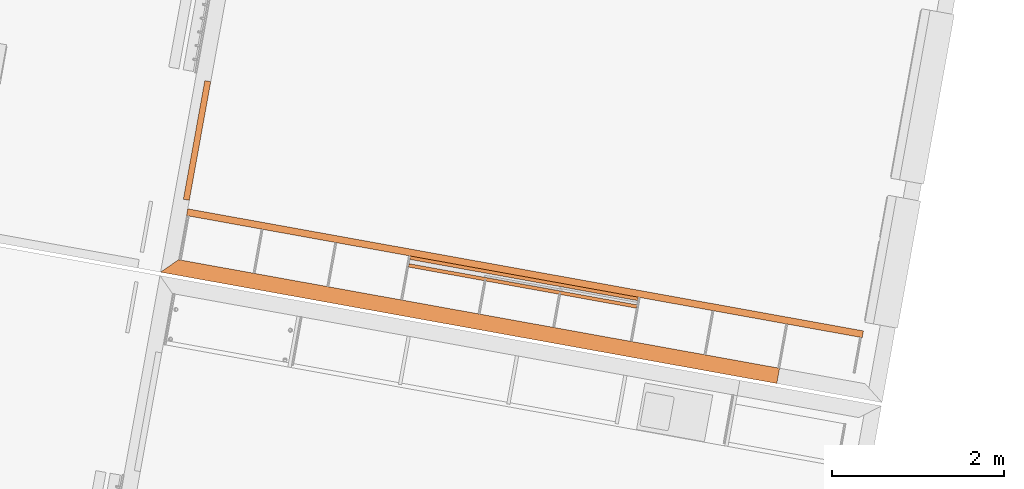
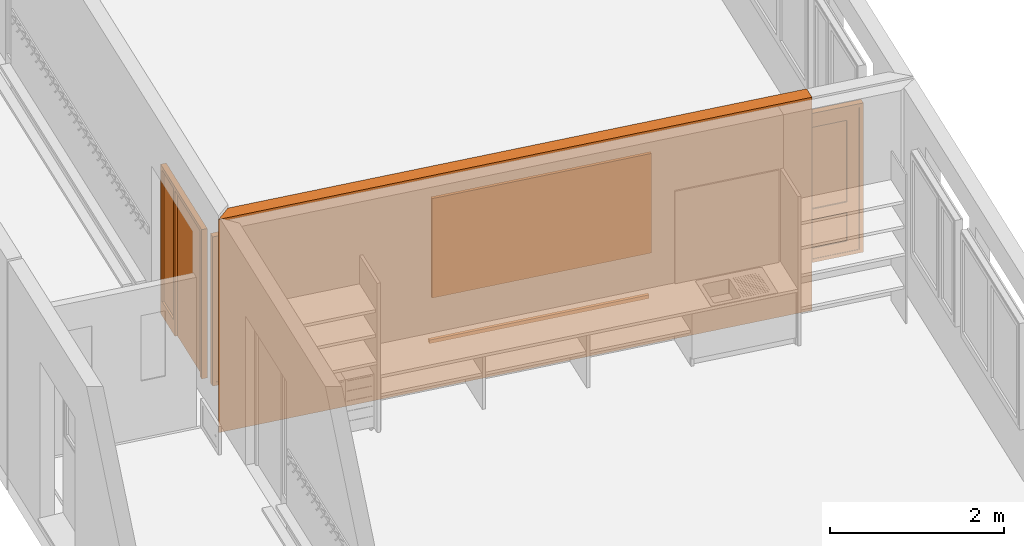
# One storey, part 20 of 52: 5 proxies.
"""IFC2X3 building model written with IfcOpenShell, lengths in metres."""

from ifc_helpers import new_model, entity, si_unit, converted_unit, derived_unit, money_unit, direction, frame, origin_with_axes, place, context, subcontext, project, spatial, polyline, outline, extrude, open_shell, faceted_brep, surface_model, source, transform, mapped, material, type_object, element, save


model = new_model("IFC2X3")

# Units and contexts
model_context = context("Model", 3, precision=1e-05, world=origin_with_axes(), true_north=direction((0.0, 1.0)))
body_context = subcontext(model_context, "Body", "Model", "MODEL_VIEW")
ifc_project = project(units=[si_unit("LENGTHUNIT", "METRE"), si_unit("AREAUNIT", "SQUARE_METRE"), si_unit("VOLUMEUNIT", "CUBIC_METRE"), converted_unit("PLANEANGLEUNIT", "DEGREE", entity("IfcPlaneAngleMeasure", 0.0174532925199), si_unit("PLANEANGLEUNIT", "RADIAN"), dimensions=[0, 0, 0, 0, 0, 0, 0]), money_unit("CHF"), converted_unit("TIMEUNIT", "Year", entity("IfcTimeMeasure", 31556926.0), si_unit("TIMEUNIT", "SECOND"), dimensions=[0, 0, 1, 0, 0, 0, 0]), si_unit("MASSUNIT", "GRAM", prefix="KILO"), si_unit("THERMODYNAMICTEMPERATUREUNIT", "DEGREE_CELSIUS"), si_unit("LUMINOUSINTENSITYUNIT", "LUMEN"), si_unit("ENERGYUNIT", "JOULE", prefix="MEGA"), derived_unit("THERMALCONDUCTANCEUNIT", [(si_unit("POWERUNIT", "WATT"), 1), (si_unit("LENGTHUNIT", "METRE"), -1), (si_unit("THERMODYNAMICTEMPERATUREUNIT", "KELVIN"), -1)]), derived_unit("SPECIFICHEATCAPACITYUNIT", [(si_unit("ENERGYUNIT", "JOULE"), 1), (si_unit("MASSUNIT", "GRAM", prefix="KILO"), -1), (si_unit("THERMODYNAMICTEMPERATUREUNIT", "KELVIN"), -1)]), derived_unit("MASSDENSITYUNIT", [(si_unit("MASSUNIT", "GRAM", prefix="KILO"), 1), (si_unit("VOLUMEUNIT", "CUBIC_METRE"), -1)])], contexts=[model_context])

# Site, building, storey
site_placement = place(None, frame((0.0, 0.0, 0.0), z_axis=(0.0, 0.0, 1.0), x_axis=(-0.177771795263, -0.984071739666, 0.0)))
site = spatial("IfcSite", under=ifc_project, at=site_placement, Name="Site", CompositionType="ELEMENT")
building_placement = place(site_placement, origin_with_axes())
building = spatial("IfcBuilding", under=site, at=building_placement, Name="Bâtiment", CompositionType="ELEMENT")
storey_placement = place(building_placement, frame((0.0, 0.0, 3.2), z_axis=(0.0, 0.0, 1.0), x_axis=(1.0, 0.0, 0.0)))
storey = spatial("IfcBuildingStorey", under=building, at=storey_placement, Name="R+1", CompositionType="ELEMENT", Elevation=3.2)

# Proxies
ifc_material_1 = material(Name="_BA banché RAL9007")
building_element_proxy_type_1 = type_object("IfcBuildingElementProxyType", Name="_BA banché RAL9007 180", PredefinedType="NOTDEFINED")
proxy_1_placement = place(storey_placement, frame((128.464841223, -156.627151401, -0.15), z_axis=(0.0, 0.0, 1.0), x_axis=(0.0, 1.0, 0.0)))
element("IfcBuildingElementProxy", 1, at=proxy_1_placement, inside=storey, type_object=building_element_proxy_type_1, material=ifc_material_1, Name="M refend", context=body_context, shape_type="SweptSolid", body=[
    extrude(outline(polyline([(0.0, 0.0), (7.26899999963, 0.0), (7.26899999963, 0.18), (0.179999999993, 0.18), (0.0, 0.0)])), origin_with_axes(), (0.0, 0.0, 1.0), 3.0),
])
ifc_material_2 = material(Name="Matériau de construction IFC")
building_element_proxy_type_2 = type_object("IfcBuildingElementProxyType", Name="porte-couliss-triple_JM2", PredefinedType="NOTDEFINED")
shared_shape_1 = source(origin_with_axes(), body_context, "Body", "SurfaceModel", [
    surface_model("IfcShellBasedSurfaceModel", [(7.92, -0.0799999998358, 0.05), (7.92, -0.0799999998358, 2.05), (7.92, 1.64206426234e-10, 2.05), (7.92, 1.64206426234e-10, 0.05), (7.97, -0.0799999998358, 2.05), (7.97, -0.0799999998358, 0.05), (7.97, 1.64206426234e-10, 2.05), (7.97, 1.64206426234e-10, 0.05)], [open_shell([[[0, 1, 2, 3]], [[4, 1, 0, 5]], [[6, 7, 3, 2]]])]),
    surface_model("IfcShellBasedSurfaceModel", [(7.97, -0.0799999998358, 0.0), (7.97, -0.0799999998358, 2.1), (7.97, 1.64206426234e-10, 2.1), (7.97, 1.64206426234e-10, 0.0)], [open_shell([[[0, 1, 2, 3]]])]),
    surface_model("IfcShellBasedSurfaceModel", [(0.05, -0.0799999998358, 0.05), (7.92, -0.0799999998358, 0.05), (7.92, 1.64206426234e-10, 0.05), (0.05, 1.64206426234e-10, 0.05), (7.92, -0.0799999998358, 0.0), (0.05, -0.0799999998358, 0.0), (7.92, 1.64206426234e-10, 0.0), (0.05, 1.64206426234e-10, 0.0)], [open_shell([[[0, 1, 2, 3]], [[4, 1, 0, 5]], [[6, 7, 3, 2]]])]),
    surface_model("IfcShellBasedSurfaceModel", [(7.97, -0.0799999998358, 0.0), (0.0, -0.0799999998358, 0.0), (0.0, 1.64206426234e-10, 0.0), (7.97, 1.64206426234e-10, 0.0)], [open_shell([[[0, 1, 2, 3]]])]),
    surface_model("IfcShellBasedSurfaceModel", [(7.97, -0.0799999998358, 0.0), (7.97, -0.0799999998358, 0.05), (7.92, -0.0799999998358, 0.05), (7.92, -0.0799999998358, 0.0)], [open_shell([[[0, 1, 2, 3]]])]),
    surface_model("IfcShellBasedSurfaceModel", [(7.97, 1.64206426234e-10, 0.0), (7.97, 1.64206426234e-10, 0.05), (7.92, 1.64206426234e-10, 0.05), (7.92, 1.64206426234e-10, 0.0)], [open_shell([[[0, 1, 2, 3]]])]),
    surface_model("IfcShellBasedSurfaceModel", [(0.05, -0.0799999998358, 0.0), (0.05, -0.0799999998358, 0.05), (0.0, -0.0799999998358, 0.05), (0.0, -0.0799999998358, 0.0)], [open_shell([[[0, 1, 2, 3]]])]),
    surface_model("IfcShellBasedSurfaceModel", [(0.05, 1.64206426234e-10, 0.0), (0.05, 1.64206426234e-10, 0.05), (0.0, 1.64206426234e-10, 0.05), (0.0, 1.64206426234e-10, 0.0)], [open_shell([[[0, 1, 2, 3]]])]),
    surface_model("IfcShellBasedSurfaceModel", [(0.05, -0.0799999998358, 2.05), (0.05, -0.0799999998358, 0.05), (0.05, 1.64206426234e-10, 0.05), (0.05, 1.64206426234e-10, 2.05), (0.0, -0.0799999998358, 0.05), (0.0, -0.0799999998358, 2.05), (0.0, 1.64206426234e-10, 0.05), (0.0, 1.64206426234e-10, 2.05)], [open_shell([[[0, 1, 2, 3]], [[4, 1, 0, 5]], [[6, 7, 3, 2]]])]),
    surface_model("IfcShellBasedSurfaceModel", [(0.0, -0.0799999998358, 0.0), (0.0, -0.0799999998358, 2.1), (0.0, 1.64206426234e-10, 2.1), (0.0, 1.64206426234e-10, 0.0)], [open_shell([[[0, 1, 2, 3]]])]),
    surface_model("IfcShellBasedSurfaceModel", [(7.92, -0.0799999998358, 2.05), (0.05, -0.0799999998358, 2.05), (0.05, 1.64206426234e-10, 2.05), (7.92, 1.64206426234e-10, 2.05), (0.05, -0.0799999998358, 2.1), (7.92, -0.0799999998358, 2.1), (0.05, 1.64206426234e-10, 2.1), (7.92, 1.64206426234e-10, 2.1)], [open_shell([[[0, 1, 2, 3]], [[4, 1, 0, 5]], [[6, 7, 3, 2]]])]),
    surface_model("IfcShellBasedSurfaceModel", [(7.97, -0.0799999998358, 2.1), (0.0, -0.0799999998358, 2.1), (0.0, 1.64206426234e-10, 2.1), (7.97, 1.64206426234e-10, 2.1)], [open_shell([[[0, 1, 2, 3]]])]),
    surface_model("IfcShellBasedSurfaceModel", [(7.97, -0.0799999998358, 2.05), (7.97, -0.0799999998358, 2.1), (7.92, -0.0799999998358, 2.1), (7.92, -0.0799999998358, 2.05)], [open_shell([[[0, 1, 2, 3]]])]),
    surface_model("IfcShellBasedSurfaceModel", [(7.97, 1.64206426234e-10, 2.05), (7.97, 1.64206426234e-10, 2.1), (7.92, 1.64206426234e-10, 2.1), (7.92, 1.64206426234e-10, 2.05)], [open_shell([[[0, 1, 2, 3]]])]),
    surface_model("IfcShellBasedSurfaceModel", [(0.05, -0.0799999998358, 2.05), (0.05, -0.0799999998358, 2.1), (0.0, -0.0799999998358, 2.1), (0.0, -0.0799999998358, 2.05)], [open_shell([[[0, 1, 2, 3]]])]),
    surface_model("IfcShellBasedSurfaceModel", [(0.05, 1.64206426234e-10, 2.05), (0.05, 1.64206426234e-10, 2.1), (0.0, 1.64206426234e-10, 2.1), (0.0, 1.64206426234e-10, 2.05)], [open_shell([[[0, 1, 2, 3]]])]),
    surface_model("IfcShellBasedSurfaceModel", [(7.77, -0.0744999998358, 0.2), (7.77, -0.0744999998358, 1.9), (7.77, -0.00449999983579, 1.9), (7.77, -0.00449999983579, 0.2), (7.92, -0.0744999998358, 1.9), (7.92, -0.0744999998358, 0.2), (7.92, -0.00449999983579, 1.9), (7.92, -0.00449999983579, 0.2)], [open_shell([[[0, 1, 2, 3]], [[4, 1, 0, 5]], [[6, 7, 3, 2]]])]),
    surface_model("IfcShellBasedSurfaceModel", [(7.92, -0.0744999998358, 0.05), (7.92, -0.0744999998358, 2.05), (7.92, -0.00449999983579, 2.05), (7.92, -0.00449999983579, 0.05)], [open_shell([[[0, 1, 2, 3]]])]),
    surface_model("IfcShellBasedSurfaceModel", [(5.48, -0.0744999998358, 0.2), (7.77, -0.0744999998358, 0.2), (7.77, -0.00449999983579, 0.2), (5.48, -0.00449999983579, 0.2), (7.77, -0.0744999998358, 0.05), (5.48, -0.0744999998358, 0.05), (7.77, -0.00449999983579, 0.05), (5.48, -0.00449999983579, 0.05)], [open_shell([[[0, 1, 2, 3]], [[4, 1, 0, 5]], [[6, 7, 3, 2]]])]),
    surface_model("IfcShellBasedSurfaceModel", [(7.92, -0.0744999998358, 0.05), (5.33, -0.0744999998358, 0.05), (5.33, -0.00449999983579, 0.05), (7.92, -0.00449999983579, 0.05)], [open_shell([[[0, 1, 2, 3]]])]),
    surface_model("IfcShellBasedSurfaceModel", [(7.92, -0.0744999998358, 0.05), (7.92, -0.0744999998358, 0.2), (7.77, -0.0744999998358, 0.2), (7.77, -0.0744999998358, 0.05)], [open_shell([[[0, 1, 2, 3]]])]),
    surface_model("IfcShellBasedSurfaceModel", [(7.92, -0.00449999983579, 0.05), (7.92, -0.00449999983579, 0.2), (7.77, -0.00449999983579, 0.2), (7.77, -0.00449999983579, 0.05)], [open_shell([[[0, 1, 2, 3]]])]),
    surface_model("IfcShellBasedSurfaceModel", [(5.48, -0.0744999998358, 0.05), (5.48, -0.0744999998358, 0.2), (5.33, -0.0744999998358, 0.2), (5.33, -0.0744999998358, 0.05)], [open_shell([[[0, 1, 2, 3]]])]),
    surface_model("IfcShellBasedSurfaceModel", [(5.48, -0.00449999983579, 0.05), (5.48, -0.00449999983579, 0.2), (5.33, -0.00449999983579, 0.2), (5.33, -0.00449999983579, 0.05)], [open_shell([[[0, 1, 2, 3]]])]),
    surface_model("IfcShellBasedSurfaceModel", [(5.48, -0.0744999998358, 1.9), (5.48, -0.0744999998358, 0.2), (5.48, -0.00449999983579, 0.2), (5.48, -0.00449999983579, 1.9), (5.33, -0.0744999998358, 0.2), (5.33, -0.0744999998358, 1.9), (5.33, -0.00449999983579, 0.2), (5.33, -0.00449999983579, 1.9)], [open_shell([[[0, 1, 2, 3]], [[4, 1, 0, 5]], [[6, 7, 3, 2]]])]),
    surface_model("IfcShellBasedSurfaceModel", [(5.33, -0.0744999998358, 0.05), (5.33, -0.0744999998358, 2.05), (5.33, -0.00449999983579, 2.05), (5.33, -0.00449999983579, 0.05)], [open_shell([[[0, 1, 2, 3]]])]),
    surface_model("IfcShellBasedSurfaceModel", [(7.77, -0.0744999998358, 1.9), (5.48, -0.0744999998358, 1.9), (5.48, -0.00449999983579, 1.9), (7.77, -0.00449999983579, 1.9), (5.48, -0.0744999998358, 2.05), (7.77, -0.0744999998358, 2.05), (5.48, -0.00449999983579, 2.05), (7.77, -0.00449999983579, 2.05)], [open_shell([[[0, 1, 2, 3]], [[4, 1, 0, 5]], [[6, 7, 3, 2]]])]),
    surface_model("IfcShellBasedSurfaceModel", [(7.92, -0.0744999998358, 2.05), (5.33, -0.0744999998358, 2.05), (5.33, -0.00449999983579, 2.05), (7.92, -0.00449999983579, 2.05)], [open_shell([[[0, 1, 2, 3]]])]),
    surface_model("IfcShellBasedSurfaceModel", [(7.92, -0.0744999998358, 1.9), (7.92, -0.0744999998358, 2.05), (7.77, -0.0744999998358, 2.05), (7.77, -0.0744999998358, 1.9)], [open_shell([[[0, 1, 2, 3]]])]),
    surface_model("IfcShellBasedSurfaceModel", [(7.92, -0.00449999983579, 1.9), (7.92, -0.00449999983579, 2.05), (7.77, -0.00449999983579, 2.05), (7.77, -0.00449999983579, 1.9)], [open_shell([[[0, 1, 2, 3]]])]),
    surface_model("IfcShellBasedSurfaceModel", [(5.48, -0.0744999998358, 1.9), (5.48, -0.0744999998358, 2.05), (5.33, -0.0744999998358, 2.05), (5.33, -0.0744999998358, 1.9)], [open_shell([[[0, 1, 2, 3]]])]),
    surface_model("IfcShellBasedSurfaceModel", [(5.48, -0.00449999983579, 1.9), (5.48, -0.00449999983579, 2.05), (5.33, -0.00449999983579, 2.05), (5.33, -0.00449999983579, 1.9)], [open_shell([[[0, 1, 2, 3]]])]),
    faceted_brep([(5.48, -0.0194999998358, 0.2), (7.77, -0.0194999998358, 0.2), (7.77, -0.0594999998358, 0.2), (5.48, -0.0594999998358, 0.2), (5.48, -0.0194999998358, 0.6), (7.77, -0.0194999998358, 0.6), (7.77, -0.0594999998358, 0.6), (5.48, -0.0594999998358, 0.6)], [[[0, 1, 2, 3]], [[1, 0, 4, 5]], [[2, 1, 5, 6]], [[3, 2, 6, 7]], [[0, 3, 7, 4]], [[5, 4, 7, 6]]]),
    faceted_brep([(5.48, -0.00449999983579, 0.6), (7.77, -0.00449999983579, 0.6), (7.77, -0.0744999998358, 0.6), (5.48, -0.0744999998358, 0.6), (5.48, -0.00449999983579, 0.75), (7.77, -0.00449999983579, 0.75), (7.77, -0.0744999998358, 0.75), (5.48, -0.0744999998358, 0.75)], [[[0, 1, 2, 3]], [[1, 0, 4, 5]], [[2, 1, 5, 6]], [[3, 2, 6, 7]], [[0, 3, 7, 4]], [[5, 4, 7, 6]]]),
    faceted_brep([(5.48, -0.0194999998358, 0.75), (7.77, -0.0194999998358, 0.75), (7.77, -0.0594999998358, 0.75), (5.48, -0.0594999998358, 0.75), (5.48, -0.0194999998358, 1.9), (7.77, -0.0194999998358, 1.9), (7.77, -0.0594999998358, 1.9), (5.48, -0.0594999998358, 1.9)], [[[0, 1, 2, 3]], [[1, 0, 4, 5]], [[2, 1, 5, 6]], [[3, 2, 6, 7]], [[0, 3, 7, 4]], [[5, 4, 7, 6]]]),
    surface_model("IfcShellBasedSurfaceModel", [(2.49, -0.0744999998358, 0.2), (2.49, -0.0744999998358, 1.9), (2.49, -0.00449999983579, 1.9), (2.49, -0.00449999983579, 0.2), (2.64, -0.0744999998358, 1.9), (2.64, -0.0744999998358, 0.2), (2.64, -0.00449999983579, 1.9), (2.64, -0.00449999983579, 0.2)], [open_shell([[[0, 1, 2, 3]], [[4, 1, 0, 5]], [[6, 7, 3, 2]]])]),
    surface_model("IfcShellBasedSurfaceModel", [(2.64, -0.0744999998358, 0.05), (2.64, -0.0744999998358, 2.05), (2.64, -0.00449999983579, 2.05), (2.64, -0.00449999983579, 0.05)], [open_shell([[[0, 1, 2, 3]]])]),
    surface_model("IfcShellBasedSurfaceModel", [(0.2, -0.0744999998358, 0.2), (2.49, -0.0744999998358, 0.2), (2.49, -0.00449999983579, 0.2), (0.2, -0.00449999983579, 0.2), (2.49, -0.0744999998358, 0.05), (0.2, -0.0744999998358, 0.05), (2.49, -0.00449999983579, 0.05), (0.2, -0.00449999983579, 0.05)], [open_shell([[[0, 1, 2, 3]], [[4, 1, 0, 5]], [[6, 7, 3, 2]]])]),
    surface_model("IfcShellBasedSurfaceModel", [(2.64, -0.0744999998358, 0.05), (0.05, -0.0744999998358, 0.05), (0.05, -0.00449999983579, 0.05), (2.64, -0.00449999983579, 0.05)], [open_shell([[[0, 1, 2, 3]]])]),
    surface_model("IfcShellBasedSurfaceModel", [(2.64, -0.0744999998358, 0.05), (2.64, -0.0744999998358, 0.2), (2.49, -0.0744999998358, 0.2), (2.49, -0.0744999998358, 0.05)], [open_shell([[[0, 1, 2, 3]]])]),
    surface_model("IfcShellBasedSurfaceModel", [(2.64, -0.00449999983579, 0.05), (2.64, -0.00449999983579, 0.2), (2.49, -0.00449999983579, 0.2), (2.49, -0.00449999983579, 0.05)], [open_shell([[[0, 1, 2, 3]]])]),
    surface_model("IfcShellBasedSurfaceModel", [(0.2, -0.0744999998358, 0.05), (0.2, -0.0744999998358, 0.2), (0.05, -0.0744999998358, 0.2), (0.05, -0.0744999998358, 0.05)], [open_shell([[[0, 1, 2, 3]]])]),
    surface_model("IfcShellBasedSurfaceModel", [(0.2, -0.00449999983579, 0.05), (0.2, -0.00449999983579, 0.2), (0.05, -0.00449999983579, 0.2), (0.05, -0.00449999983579, 0.05)], [open_shell([[[0, 1, 2, 3]]])]),
    surface_model("IfcShellBasedSurfaceModel", [(0.2, -0.0744999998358, 1.9), (0.2, -0.0744999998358, 0.2), (0.2, -0.00449999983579, 0.2), (0.2, -0.00449999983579, 1.9), (0.05, -0.0744999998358, 0.2), (0.05, -0.0744999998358, 1.9), (0.05, -0.00449999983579, 0.2), (0.05, -0.00449999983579, 1.9)], [open_shell([[[0, 1, 2, 3]], [[4, 1, 0, 5]], [[6, 7, 3, 2]]])]),
    surface_model("IfcShellBasedSurfaceModel", [(0.05, -0.0744999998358, 0.05), (0.05, -0.0744999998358, 2.05), (0.05, -0.00449999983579, 2.05), (0.05, -0.00449999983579, 0.05)], [open_shell([[[0, 1, 2, 3]]])]),
    surface_model("IfcShellBasedSurfaceModel", [(2.49, -0.0744999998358, 1.9), (0.2, -0.0744999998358, 1.9), (0.2, -0.00449999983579, 1.9), (2.49, -0.00449999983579, 1.9), (0.2, -0.0744999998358, 2.05), (2.49, -0.0744999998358, 2.05), (0.2, -0.00449999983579, 2.05), (2.49, -0.00449999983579, 2.05)], [open_shell([[[0, 1, 2, 3]], [[4, 1, 0, 5]], [[6, 7, 3, 2]]])]),
    surface_model("IfcShellBasedSurfaceModel", [(2.64, -0.0744999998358, 2.05), (0.05, -0.0744999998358, 2.05), (0.05, -0.00449999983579, 2.05), (2.64, -0.00449999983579, 2.05)], [open_shell([[[0, 1, 2, 3]]])]),
    surface_model("IfcShellBasedSurfaceModel", [(2.64, -0.0744999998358, 1.9), (2.64, -0.0744999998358, 2.05), (2.49, -0.0744999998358, 2.05), (2.49, -0.0744999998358, 1.9)], [open_shell([[[0, 1, 2, 3]]])]),
    surface_model("IfcShellBasedSurfaceModel", [(2.64, -0.00449999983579, 1.9), (2.64, -0.00449999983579, 2.05), (2.49, -0.00449999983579, 2.05), (2.49, -0.00449999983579, 1.9)], [open_shell([[[0, 1, 2, 3]]])]),
    surface_model("IfcShellBasedSurfaceModel", [(0.2, -0.0744999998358, 1.9), (0.2, -0.0744999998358, 2.05), (0.05, -0.0744999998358, 2.05), (0.05, -0.0744999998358, 1.9)], [open_shell([[[0, 1, 2, 3]]])]),
    surface_model("IfcShellBasedSurfaceModel", [(0.2, -0.00449999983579, 1.9), (0.2, -0.00449999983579, 2.05), (0.05, -0.00449999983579, 2.05), (0.05, -0.00449999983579, 1.9)], [open_shell([[[0, 1, 2, 3]]])]),
    faceted_brep([(0.2, -0.0194999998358, 0.2), (2.49, -0.0194999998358, 0.2), (2.49, -0.0594999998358, 0.2), (0.2, -0.0594999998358, 0.2), (0.2, -0.0194999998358, 0.6), (2.49, -0.0194999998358, 0.6), (2.49, -0.0594999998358, 0.6), (0.2, -0.0594999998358, 0.6)], [[[0, 1, 2, 3]], [[1, 0, 4, 5]], [[2, 1, 5, 6]], [[3, 2, 6, 7]], [[0, 3, 7, 4]], [[5, 4, 7, 6]]]),
    faceted_brep([(0.2, -0.00449999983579, 0.6), (2.49, -0.00449999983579, 0.6), (2.49, -0.0744999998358, 0.6), (0.2, -0.0744999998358, 0.6), (0.2, -0.00449999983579, 0.75), (2.49, -0.00449999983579, 0.75), (2.49, -0.0744999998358, 0.75), (0.2, -0.0744999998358, 0.75)], [[[0, 1, 2, 3]], [[1, 0, 4, 5]], [[2, 1, 5, 6]], [[3, 2, 6, 7]], [[0, 3, 7, 4]], [[5, 4, 7, 6]]]),
    faceted_brep([(0.2, -0.0194999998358, 0.75), (2.49, -0.0194999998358, 0.75), (2.49, -0.0594999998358, 0.75), (0.2, -0.0594999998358, 0.75), (0.2, -0.0194999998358, 1.9), (2.49, -0.0194999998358, 1.9), (2.49, -0.0594999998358, 1.9), (0.2, -0.0594999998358, 1.9)], [[[0, 1, 2, 3]], [[1, 0, 4, 5]], [[2, 1, 5, 6]], [[3, 2, 6, 7]], [[0, 3, 7, 4]], [[5, 4, 7, 6]]]),
])
proxy_2_placement = place(storey_placement, frame((127.68484124, -156.447151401, 0.0), z_axis=(0.0, 0.0, 1.0), x_axis=(0.0, 1.0, 0.0)))
element("IfcBuildingElementProxy", 2, at=proxy_2_placement, inside=storey, type_object=building_element_proxy_type_2, material=ifc_material_2, Name="coulissant-classe", context=body_context, shape_type="MappedRepresentation", body=[
    mapped(shared_shape_1, transform((0.0, 0.0, 0.0))),
])
ifc_material_3 = material(Name="_panneau mélaminé")
building_element_proxy_type_3 = type_object("IfcBuildingElementProxyType", Name="_panneau mélaminé 40", PredefinedType="NOTDEFINED")
proxy_3_placement = place(storey_placement, frame((127.854841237, -151.107651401, 0.7), z_axis=(0.0, 0.0, 1.0), x_axis=(0.0, -1.0, 0.0)))
element("IfcBuildingElementProxy", 3, at=proxy_3_placement, inside=storey, type_object=building_element_proxy_type_3, material=ifc_material_3, Name="tableau-classe", context=body_context, shape_type="SweptSolid", body=[
    extrude(outline(polyline([(0.0095, 0.0), (2.6995, 0.0), (2.6995, 0.04), (0.0095, 0.04), (0.0095, 0.0)])), origin_with_axes(), (0.0, 0.0, 1.0), 1.4),
])
building_element_proxy_type_4 = type_object("IfcBuildingElementProxyType", Name="Porte avec tierce vitrée côté 2 21", PredefinedType="NOTDEFINED")
shared_shape_2 = source(origin_with_axes(), body_context, "Body", "SurfaceModel", [
    faceted_brep([(0.0, 0.18000000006, 0.0), (0.05, 0.18000000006, 0.0), (0.05, 0.11000000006, 0.0), (0.0, 0.11000000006, 0.0), (0.0, 0.18000000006, 2.05), (0.05, 0.18000000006, 2.05), (0.05, 0.18000000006, 0.2), (0.05, 0.11000000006, 0.2), (0.05, 0.11000000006, 2.05), (0.0, 0.11000000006, 2.05)], [[[0, 1, 2, 3]], [[0, 4, 5, 6, 1]], [[1, 6, 7, 2]], [[3, 2, 7, 8, 9]], [[4, 0, 3, 9]], [[5, 4, 9, 8]], [[6, 5, 8, 7]]]),
    faceted_brep([(0.49, 0.14000000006, 0.0), (0.49, 0.14000000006, 2.05), (0.49, 0.11000000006, 2.05), (0.49, 0.11000000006, 0.0), (0.47, 0.14000000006, 2.05), (0.47, 0.14000000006, 0.0), (0.47, 0.18000000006, 2.05), (0.44, 0.18000000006, 2.05), (0.44, 0.11000000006, 2.05), (0.44, 0.11000000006, 0.0), (0.44, 0.11000000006, 0.2), (0.44, 0.18000000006, 0.0), (0.47, 0.18000000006, 0.0), (0.44, 0.18000000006, 0.2)], [[[0, 1, 2, 3]], [[4, 1, 0, 5]], [[4, 6, 7, 8, 2, 1]], [[9, 3, 2, 8, 10]], [[5, 0, 3, 9, 11, 12]], [[6, 4, 5, 12]], [[6, 12, 11, 13, 7]], [[13, 10, 8, 7]], [[11, 9, 10, 13]]]),
    faceted_brep([(0.05, 0.18000000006, 0.2), (0.05, 0.18000000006, 0.0), (0.05, 0.11000000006, 0.0), (0.05, 0.11000000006, 0.2), (0.44, 0.18000000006, 0.2), (0.44, 0.18000000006, 0.0), (0.44, 0.11000000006, 0.0), (0.44, 0.11000000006, 0.2)], [[[0, 1, 2, 3]], [[0, 4, 5, 1]], [[1, 5, 6, 2]], [[3, 2, 6, 7]], [[4, 0, 3, 7]], [[5, 4, 7, 6]]]),
    faceted_brep([(1.37, 0.14000000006, 2.05), (1.35, 0.14000000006, 2.05), (1.35, 0.11000000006, 2.05), (1.4, 0.11000000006, 2.05), (1.4, 0.18000000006, 2.05), (1.37, 0.18000000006, 2.05), (1.37, 0.14000000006, 0.0), (1.35, 0.14000000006, 0.0), (1.35, 0.11000000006, 0.0), (1.4, 0.11000000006, 0.0), (1.4, 0.18000000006, 0.0), (1.37, 0.18000000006, 0.0)], [[[0, 1, 2, 3, 4, 5]], [[1, 0, 6, 7]], [[1, 7, 8, 2]], [[3, 2, 8, 9]], [[4, 3, 9, 10]], [[11, 5, 4, 10]], [[0, 5, 11, 6]], [[6, 11, 10, 9, 8, 7]]]),
    faceted_brep([(0.47, 0.18000000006, 2.07), (0.47, 0.18000000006, 2.05), (0.44, 0.18000000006, 2.05), (0.05, 0.18000000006, 2.05), (0.0, 0.18000000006, 2.05), (0.0, 0.18000000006, 2.1), (1.4, 0.18000000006, 2.1), (1.4, 0.18000000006, 2.05), (1.37, 0.18000000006, 2.05), (1.37, 0.18000000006, 2.07), (0.47, 0.14000000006, 2.07), (0.47, 0.14000000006, 2.05), (1.35, 0.14000000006, 2.05), (1.35, 0.11000000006, 2.05), (0.49, 0.11000000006, 2.05), (0.44, 0.11000000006, 2.05), (0.05, 0.11000000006, 2.05), (0.0, 0.11000000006, 2.05), (0.0, 0.11000000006, 2.1), (1.4, 0.11000000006, 2.1), (1.4, 0.11000000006, 2.05), (1.37, 0.14000000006, 2.05), (1.37, 0.14000000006, 2.07)], [[[0, 1, 2, 3, 4, 5, 6, 7, 8, 9]], [[1, 0, 10, 11]], [[11, 12, 13, 14, 15, 2, 1]], [[2, 15, 16, 3]], [[3, 16, 17, 4]], [[4, 17, 18, 5]], [[5, 18, 19, 6]], [[6, 19, 20, 7]], [[21, 8, 7, 20, 13, 12]], [[9, 8, 21, 22]], [[0, 9, 22, 10]], [[21, 12, 11, 10, 22]], [[13, 20, 19, 18, 17, 16, 15, 14]]]),
    faceted_brep([(1.37, 0.18000000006, 0.0), (1.37, 0.14000000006, 0.0), (0.47, 0.14000000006, 0.0), (0.47, 0.18000000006, 0.0), (1.37, 0.18000000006, 2.07), (1.37, 0.14000000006, 2.07), (0.47, 0.14000000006, 2.07), (0.47, 0.18000000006, 2.07)], [[[0, 1, 2, 3]], [[4, 5, 1, 0]], [[1, 5, 6, 2]], [[3, 2, 6, 7]], [[0, 3, 7, 4]], [[7, 6, 5, 4]]]),
    surface_model("IfcShellBasedSurfaceModel", [(0.05, 0.14500000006, 0.2), (0.05, 0.14500000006, 2.05), (0.44, 0.14500000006, 2.05), (0.44, 0.14500000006, 0.2)], [open_shell([[[0, 1, 2, 3]]])]),
    surface_model("IfcShellBasedSurfaceModel", [(0.05, 0.13500000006, 0.2), (0.44, 0.13500000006, 0.2), (0.44, 0.13500000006, 2.05), (0.05, 0.13500000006, 2.05)], [open_shell([[[0, 1, 2, 3]]])]),
])
proxy_4_placement = place(storey_placement, frame((126.184841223, -156.627151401, 0.0), z_axis=(0.0, 0.0, 1.0), x_axis=(1.0, 0.0, 0.0)))
element("IfcBuildingElementProxy", 4, at=proxy_4_placement, inside=storey, type_object=building_element_proxy_type_4, material=ifc_material_2, Name="14", context=body_context, shape_type="MappedRepresentation", body=[
    mapped(shared_shape_2, transform((0.0, 0.0, 0.0))),
])
ifc_material_4 = material(Name="_Bois contreplaqué")
building_element_proxy_type_5 = type_object("IfcBuildingElementProxyType", Name="_Bois contreplaqué 50", PredefinedType="NOTDEFINED")
proxy_5_placement = place(storey_placement, frame((127.764841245, -153.807151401, 0.05), z_axis=(0.0, 0.0, 1.0), x_axis=(1.0, 0.0, 0.0)))
element("IfcBuildingElementProxy", 5, at=proxy_5_placement, inside=storey, type_object=building_element_proxy_type_5, material=ifc_material_4, Name="socle-tableau", context=body_context, shape_type="SweptSolid", body=[
    extrude(outline(polyline([(0.0, 0.0), (0.0399999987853, 0.0), (0.0399999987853, 2.69), (0.0, 2.69), (0.0, 0.0)])), frame((0.0, 0.0, -0.05), z_axis=(0.0, 0.0, 1.0), x_axis=(1.0, 0.0, 0.0)), (0.0, 0.0, 1.0), 0.05),
])

save(model, "model.ifc")
